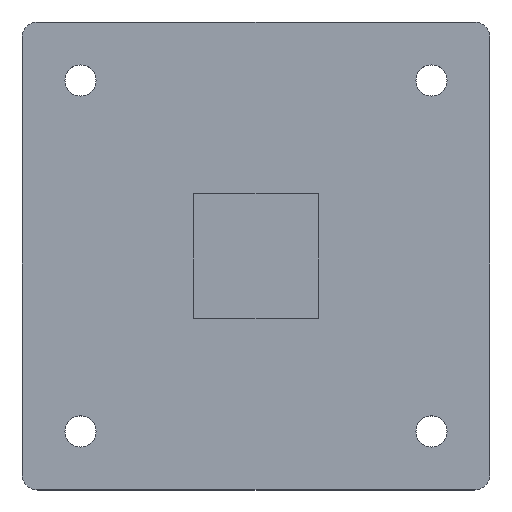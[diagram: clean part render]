
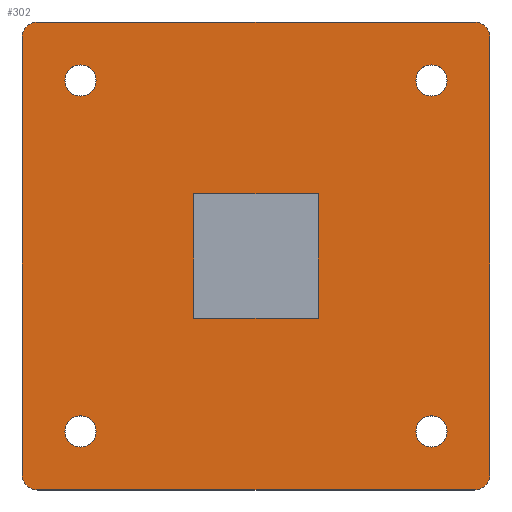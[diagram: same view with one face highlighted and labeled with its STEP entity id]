
A CAD part, top view. The second image highlights one B-rep face of the part: STEP entity #302.
In plain terms, the highlighted planar face has unit normal (0, 0, 1).
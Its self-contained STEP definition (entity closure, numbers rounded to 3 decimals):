
#248 = VERTEX_POINT( '', #712 );
#256 = EDGE_CURVE( '', #280, #430, #722, .T. );
#258 = VERTEX_POINT( '', #724 );
#272 = EDGE_CURVE( '', #294, #280, #739, .T. );
#276 = EDGE_CURVE( '', #368, #578, #743, .T. );
#280 = VERTEX_POINT( '', #747 );
#288 = EDGE_CURVE( '', #324, #294, #755, .T. );
#294 = VERTEX_POINT( '', #767 );
#302 = ADVANCED_FACE( '', ( #775, #776, #777, #778, #779, #780 ), #781, .T. );
#320 = EDGE_CURVE( '', #344, #324, #801, .T. );
#324 = VERTEX_POINT( '', #805 );
#332 = VERTEX_POINT( '', #814 );
#338 = EDGE_CURVE( '', #366, #344, #820, .T. );
#344 = VERTEX_POINT( '', #827 );
#352 = EDGE_CURVE( '', #382, #366, #836, .T. );
#366 = VERTEX_POINT( '', #851 );
#368 = VERTEX_POINT( '', #853 );
#380 = EDGE_CURVE( '', #426, #382, #866, .T. );
#382 = VERTEX_POINT( '', #868 );
#404 = EDGE_CURVE( '', #430, #426, #893, .T. );
#426 = VERTEX_POINT( '', #918 );
#430 = VERTEX_POINT( '', #922 );
#440 = EDGE_CURVE( '', #332, #544, #934, .T. );
#446 = EDGE_CURVE( '', #486, #248, #941, .T. );
#452 = EDGE_CURVE( '', #258, #538, #947, .T. );
#460 = EDGE_CURVE( '', #248, #486, #955, .T. );
#462 = EDGE_CURVE( '', #578, #368, #957, .T. );
#482 = EDGE_CURVE( '', #504, #602, #978, .T. );
#486 = VERTEX_POINT( '', #982 );
#500 = EDGE_CURVE( '', #542, #504, #998, .T. );
#504 = VERTEX_POINT( '', #1002 );
#514 = EDGE_CURVE( '', #544, #332, #1013, .T. );
#532 = EDGE_CURVE( '', #596, #542, #1031, .T. );
#538 = VERTEX_POINT( '', #1037 );
#542 = VERTEX_POINT( '', #1041 );
#544 = VERTEX_POINT( '', #1043 );
#560 = EDGE_CURVE( '', #538, #258, #1060, .T. );
#578 = VERTEX_POINT( '', #1078 );
#590 = EDGE_CURVE( '', #602, #596, #1094, .T. );
#596 = VERTEX_POINT( '', #1100 );
#602 = VERTEX_POINT( '', #1107 );
#712 = CARTESIAN_POINT( '', ( 20.5, 22.5, 0. ) );
#722 = CIRCLE( '', #1232, 2. );
#724 = CARTESIAN_POINT( '', ( -20.5, -22.5, 0. ) );
#739 = LINE( '', #1260, #1261 );
#743 = CIRCLE( '', #1268, 2. );
#747 = CARTESIAN_POINT( '', ( -28., -30., 0. ) );
#755 = CIRCLE( '', #1289, 2. );
#767 = CARTESIAN_POINT( '', ( 28., -30., 0. ) );
#775 = FACE_BOUND( '', #1315, .T. );
#776 = FACE_OUTER_BOUND( '', #1316, .T. );
#777 = FACE_BOUND( '', #1317, .T. );
#778 = FACE_BOUND( '', #1318, .T. );
#779 = FACE_BOUND( '', #1319, .T. );
#780 = FACE_BOUND( '', #1320, .T. );
#781 = PLANE( '', #1321 );
#801 = LINE( '', #1348, #1349 );
#805 = CARTESIAN_POINT( '', ( 30., -28., 0. ) );
#814 = CARTESIAN_POINT( '', ( 24.5, -22.5, 0. ) );
#820 = CIRCLE( '', #1375, 2. );
#827 = CARTESIAN_POINT( '', ( 30., 28., 0. ) );
#836 = LINE( '', #1395, #1396 );
#851 = CARTESIAN_POINT( '', ( 28., 30., 0. ) );
#853 = CARTESIAN_POINT( '', ( -24.5, 22.5, 0. ) );
#866 = CIRCLE( '', #1439, 2. );
#868 = CARTESIAN_POINT( '', ( -28., 30., 0. ) );
#893 = LINE( '', #1475, #1476 );
#918 = CARTESIAN_POINT( '', ( -30., 28., 0. ) );
#922 = CARTESIAN_POINT( '', ( -30., -28., 0. ) );
#934 = CIRCLE( '', #1530, 2. );
#941 = CIRCLE( '', #1540, 2. );
#947 = CIRCLE( '', #1549, 2. );
#955 = CIRCLE( '', #1562, 2. );
#957 = CIRCLE( '', #1565, 2. );
#978 = LINE( '', #1595, #1596 );
#982 = CARTESIAN_POINT( '', ( 24.5, 22.5, 0. ) );
#998 = LINE( '', #1623, #1624 );
#1002 = CARTESIAN_POINT( '', ( 8., 8., 0. ) );
#1013 = CIRCLE( '', #1646, 2. );
#1031 = LINE( '', #1671, #1672 );
#1037 = CARTESIAN_POINT( '', ( -24.5, -22.5, 0. ) );
#1041 = CARTESIAN_POINT( '', ( -8., 8., 0. ) );
#1043 = CARTESIAN_POINT( '', ( 20.5, -22.5, 0. ) );
#1060 = CIRCLE( '', #1715, 2. );
#1078 = CARTESIAN_POINT( '', ( -20.5, 22.5, 0. ) );
#1094 = LINE( '', #1760, #1761 );
#1100 = CARTESIAN_POINT( '', ( -8., -8., 0. ) );
#1107 = CARTESIAN_POINT( '', ( 8., -8., 0. ) );
#1232 = AXIS2_PLACEMENT_3D( '', #1934, #1935, #1936 );
#1260 = CARTESIAN_POINT( '', ( -28., -30., 0. ) );
#1261 = VECTOR( '', #1950, 1. );
#1268 = AXIS2_PLACEMENT_3D( '', #1952, #1953, #1954 );
#1289 = AXIS2_PLACEMENT_3D( '', #1959, #1960, #1961 );
#1315 = EDGE_LOOP( '', ( #1990, #1991, #1992, #1993 ) );
#1316 = EDGE_LOOP( '', ( #1994, #1995, #1996, #1997, #1998, #1999, #2000, #2001 ) );
#1317 = EDGE_LOOP( '', ( #2002, #2003 ) );
#1318 = EDGE_LOOP( '', ( #2004, #2005 ) );
#1319 = EDGE_LOOP( '', ( #2006, #2007 ) );
#1320 = EDGE_LOOP( '', ( #2008, #2009 ) );
#1321 = AXIS2_PLACEMENT_3D( '', #2010, #2011, #2012 );
#1348 = CARTESIAN_POINT( '', ( 30., -28., 0. ) );
#1349 = VECTOR( '', #2028, 1. );
#1375 = AXIS2_PLACEMENT_3D( '', #2040, #2041, #2042 );
#1395 = CARTESIAN_POINT( '', ( 28., 30., 0. ) );
#1396 = VECTOR( '', #2063, 1. );
#1439 = AXIS2_PLACEMENT_3D( '', #2086, #2087, #2088 );
#1475 = CARTESIAN_POINT( '', ( -30., 28., 0. ) );
#1476 = VECTOR( '', #2122, 1. );
#1530 = AXIS2_PLACEMENT_3D( '', #2169, #2170, #2171 );
#1540 = AXIS2_PLACEMENT_3D( '', #2181, #2182, #2183 );
#1549 = AXIS2_PLACEMENT_3D( '', #2185, #2186, #2187 );
#1562 = AXIS2_PLACEMENT_3D( '', #2190, #2191, #2192 );
#1565 = AXIS2_PLACEMENT_3D( '', #2193, #2194, #2195 );
#1595 = CARTESIAN_POINT( '', ( 8., 4., 0. ) );
#1596 = VECTOR( '', #2208, 1. );
#1623 = CARTESIAN_POINT( '', ( -4., 8., 0. ) );
#1624 = VECTOR( '', #2228, 1. );
#1646 = AXIS2_PLACEMENT_3D( '', #2240, #2241, #2242 );
#1671 = CARTESIAN_POINT( '', ( -8., -4., 0. ) );
#1672 = VECTOR( '', #2246, 1. );
#1715 = AXIS2_PLACEMENT_3D( '', #2264, #2265, #2266 );
#1760 = CARTESIAN_POINT( '', ( 4., -8., 0. ) );
#1761 = VECTOR( '', #2300, 1. );
#1934 = CARTESIAN_POINT( '', ( -28., -28., 0. ) );
#1935 = DIRECTION( '', ( 0., 0., -1. ) );
#1936 = DIRECTION( '', ( -1., 0., 0. ) );
#1950 = DIRECTION( '', ( -1., 0., 0. ) );
#1952 = CARTESIAN_POINT( '', ( -22.5, 22.5, 0. ) );
#1953 = DIRECTION( '', ( 0., 0., 1. ) );
#1954 = DIRECTION( '', ( 1., 0., 0. ) );
#1959 = CARTESIAN_POINT( '', ( 28., -28., 0. ) );
#1960 = DIRECTION( '', ( 0., 0., -1. ) );
#1961 = DIRECTION( '', ( 0., -1., 0. ) );
#1990 = ORIENTED_EDGE( '', *, *, #500, .T. );
#1991 = ORIENTED_EDGE( '', *, *, #482, .T. );
#1992 = ORIENTED_EDGE( '', *, *, #590, .T. );
#1993 = ORIENTED_EDGE( '', *, *, #532, .T. );
#1994 = ORIENTED_EDGE( '', *, *, #404, .F. );
#1995 = ORIENTED_EDGE( '', *, *, #256, .F. );
#1996 = ORIENTED_EDGE( '', *, *, #272, .F. );
#1997 = ORIENTED_EDGE( '', *, *, #288, .F. );
#1998 = ORIENTED_EDGE( '', *, *, #320, .F. );
#1999 = ORIENTED_EDGE( '', *, *, #338, .F. );
#2000 = ORIENTED_EDGE( '', *, *, #352, .F. );
#2001 = ORIENTED_EDGE( '', *, *, #380, .F. );
#2002 = ORIENTED_EDGE( '', *, *, #440, .F. );
#2003 = ORIENTED_EDGE( '', *, *, #514, .F. );
#2004 = ORIENTED_EDGE( '', *, *, #446, .F. );
#2005 = ORIENTED_EDGE( '', *, *, #460, .F. );
#2006 = ORIENTED_EDGE( '', *, *, #452, .F. );
#2007 = ORIENTED_EDGE( '', *, *, #560, .F. );
#2008 = ORIENTED_EDGE( '', *, *, #462, .F. );
#2009 = ORIENTED_EDGE( '', *, *, #276, .F. );
#2010 = CARTESIAN_POINT( '', ( 0., 0., 0. ) );
#2011 = DIRECTION( '', ( 0., 0., 1. ) );
#2012 = DIRECTION( '', ( 1., 0., 0. ) );
#2028 = DIRECTION( '', ( 0., -1., 0. ) );
#2040 = CARTESIAN_POINT( '', ( 28., 28., 0. ) );
#2041 = DIRECTION( '', ( 0., 0., -1. ) );
#2042 = DIRECTION( '', ( 1., 0., 0. ) );
#2063 = DIRECTION( '', ( 1., 0., 0. ) );
#2086 = CARTESIAN_POINT( '', ( -28., 28., 0. ) );
#2087 = DIRECTION( '', ( 0., 0., -1. ) );
#2088 = DIRECTION( '', ( 0., 1., 0. ) );
#2122 = DIRECTION( '', ( 0., 1., 0. ) );
#2169 = CARTESIAN_POINT( '', ( 22.5, -22.5, 0. ) );
#2170 = DIRECTION( '', ( 0., 0., 1. ) );
#2171 = DIRECTION( '', ( 1., 0., 0. ) );
#2181 = CARTESIAN_POINT( '', ( 22.5, 22.5, 0. ) );
#2182 = DIRECTION( '', ( 0., 0., 1. ) );
#2183 = DIRECTION( '', ( 1., 0., 0. ) );
#2185 = CARTESIAN_POINT( '', ( -22.5, -22.5, 0. ) );
#2186 = DIRECTION( '', ( 0., 0., 1. ) );
#2187 = DIRECTION( '', ( 1., 0., 0. ) );
#2190 = CARTESIAN_POINT( '', ( 22.5, 22.5, 0. ) );
#2191 = DIRECTION( '', ( 0., 0., 1. ) );
#2192 = DIRECTION( '', ( 1., 0., 0. ) );
#2193 = CARTESIAN_POINT( '', ( -22.5, 22.5, 0. ) );
#2194 = DIRECTION( '', ( 0., 0., 1. ) );
#2195 = DIRECTION( '', ( 1., 0., 0. ) );
#2208 = DIRECTION( '', ( 0., -1., 0. ) );
#2228 = DIRECTION( '', ( 1., 0., 0. ) );
#2240 = CARTESIAN_POINT( '', ( 22.5, -22.5, 0. ) );
#2241 = DIRECTION( '', ( 0., 0., 1. ) );
#2242 = DIRECTION( '', ( 1., 0., 0. ) );
#2246 = DIRECTION( '', ( 0., 1., 0. ) );
#2264 = CARTESIAN_POINT( '', ( -22.5, -22.5, 0. ) );
#2265 = DIRECTION( '', ( 0., 0., 1. ) );
#2266 = DIRECTION( '', ( 1., 0., 0. ) );
#2300 = DIRECTION( '', ( -1., 0., 0. ) );
